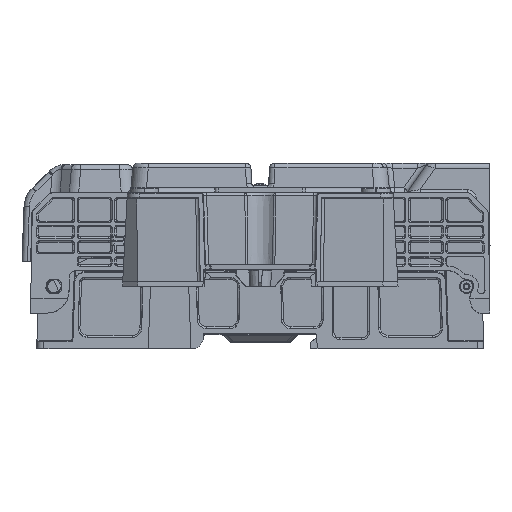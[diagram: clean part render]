
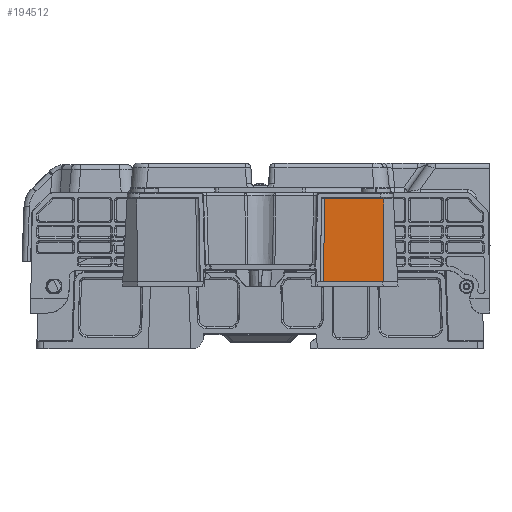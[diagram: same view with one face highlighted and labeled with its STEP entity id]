
A CAD part, front view. The second image highlights one B-rep face of the part: STEP entity #194512.
In plain terms, the highlighted planar face has unit normal (0, -1, -0.018) as drawn and (1, 0, -0.017) by its records, which use the part's own axes.
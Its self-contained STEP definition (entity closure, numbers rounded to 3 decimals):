
#15272 = VECTOR ( 'NONE', #196877, 1000. ) ;
#16289 = CARTESIAN_POINT ( 'NONE',  ( 38.997, 33.109, -1.677 ) ) ;
#16726 = DIRECTION ( 'NONE',  ( -0.017, 0., -1. ) ) ;
#17772 = EDGE_LOOP ( 'NONE', ( #159269, #117532, #165535, #231797, #231141, #183723 ) ) ;
#19069 = EDGE_CURVE ( 'NONE', #176197, #48552, #77238, .T. ) ;
#20794 = LINE ( 'NONE', #182715, #15272 ) ;
#31613 = EDGE_CURVE ( 'NONE', #131623, #188304, #186850, .T. ) ;
#35050 = CARTESIAN_POINT ( 'NONE',  ( 38.995, 33.324, -1.8 ) ) ;
#35976 = EDGE_CURVE ( 'NONE', #176197, #170138, #128241, .T. ) ;
#48552 = VERTEX_POINT ( 'NONE', #152769 ) ;
#52620 = CARTESIAN_POINT ( 'NONE',  ( 38.995, 33.267, -1.768 ) ) ;
#55269 = VECTOR ( 'NONE', #163432, 1000. ) ;
#77238 = B_SPLINE_CURVE_WITH_KNOTS ( 'NONE', 3,
 ( #178180, #179321, #157102, #142953, #35050, #212276, #52620, #16289, #87881, #214585 ),
 .UNSPECIFIED., .F., .F.,
 ( 4, 1, 1, 2, 2, 4 ),
 ( 0., 0.25, 0.375, 0.437, 0.5, 1. ),
 .UNSPECIFIED. ) ;
#80083 = DIRECTION ( 'NONE',  ( 0., 1., 0. ) ) ;
#84698 = VECTOR ( 'NONE', #80083, 1000. ) ;
#87881 = CARTESIAN_POINT ( 'NONE',  ( 38.998, 32.966, -1.591 ) ) ;
#88328 = CARTESIAN_POINT ( 'NONE',  ( 39., 0., -1.5 ) ) ;
#92147 = CARTESIAN_POINT ( 'NONE',  ( 38.991, 39.496, -2. ) ) ;
#96692 = PLANE ( 'NONE',  #190207 ) ;
#105529 = CARTESIAN_POINT ( 'NONE',  ( 38.529, 39.305, -28.5 ) ) ;
#107042 = VECTOR ( 'NONE', #179152, 1000. ) ;
#117532 = ORIENTED_EDGE ( 'NONE', *, *, #19069, .T. ) ;
#122907 = CARTESIAN_POINT ( 'NONE',  ( 38.528, 20.178, -28.517 ) ) ;
#128241 = LINE ( 'NONE', #219766, #55269 ) ;
#131623 = VERTEX_POINT ( 'NONE', #133750 ) ;
#133750 = CARTESIAN_POINT ( 'NONE',  ( 38.529, 20.179, -28.5 ) ) ;
#135254 = EDGE_CURVE ( 'NONE', #188304, #170138, #20794, .T. ) ;
#139957 = DIRECTION ( 'NONE',  ( 1., 0., -0.017 ) ) ;
#141803 = LINE ( 'NONE', #214582, #226856 ) ;
#142953 = CARTESIAN_POINT ( 'NONE',  ( 38.994, 33.379, -1.832 ) ) ;
#148948 = EDGE_CURVE ( 'NONE', #48552, #184811, #141803, .T. ) ;
#149336 = CARTESIAN_POINT ( 'NONE',  ( 38.529, 0., -28.5 ) ) ;
#152769 = CARTESIAN_POINT ( 'NONE',  ( 39., 32.819, -1.5 ) ) ;
#157102 = CARTESIAN_POINT ( 'NONE',  ( 38.993, 33.508, -1.904 ) ) ;
#159269 = ORIENTED_EDGE ( 'NONE', *, *, #35976, .F. ) ;
#163432 = DIRECTION ( 'NONE',  ( 0., 1., 0. ) ) ;
#165535 = ORIENTED_EDGE ( 'NONE', *, *, #148948, .T. ) ;
#170138 = VERTEX_POINT ( 'NONE', #92147 ) ;
#176197 = VERTEX_POINT ( 'NONE', #196426 ) ;
#178180 = CARTESIAN_POINT ( 'NONE',  ( 38.991, 33.688, -2. ) ) ;
#179152 = DIRECTION ( 'NONE',  ( -0.017, -0.017, -1. ) ) ;
#179321 = CARTESIAN_POINT ( 'NONE',  ( 38.992, 33.617, -1.962 ) ) ;
#182715 = CARTESIAN_POINT ( 'NONE',  ( 38.995, 39.498, -1.785 ) ) ;
#183723 = ORIENTED_EDGE ( 'NONE', *, *, #135254, .T. ) ;
#184811 = VERTEX_POINT ( 'NONE', #196536 ) ;
#186850 = LINE ( 'NONE', #149336, #84698 ) ;
#188304 = VERTEX_POINT ( 'NONE', #105529 ) ;
#190207 = AXIS2_PLACEMENT_3D ( 'NONE', #88328, #139957, #16726 ) ;
#194512 = ADVANCED_FACE ( 'NONE', ( #226850 ), #96692, .T. ) ;
#196426 = CARTESIAN_POINT ( 'NONE',  ( 38.991, 33.688, -2. ) ) ;
#196536 = CARTESIAN_POINT ( 'NONE',  ( 39., 20.65, -1.5 ) ) ;
#196877 = DIRECTION ( 'NONE',  ( 0.017, 0.007, 1. ) ) ;
#209581 = EDGE_CURVE ( 'NONE', #184811, #131623, #212102, .T. ) ;
#212102 = LINE ( 'NONE', #122907, #107042 ) ;
#212276 = CARTESIAN_POINT ( 'NONE',  ( 38.995, 33.287, -1.779 ) ) ;
#213428 = DIRECTION ( 'NONE',  ( 0., -1., 0. ) ) ;
#214582 = CARTESIAN_POINT ( 'NONE',  ( 39., 0., -1.5 ) ) ;
#214585 = CARTESIAN_POINT ( 'NONE',  ( 39., 32.819, -1.5 ) ) ;
#219766 = CARTESIAN_POINT ( 'NONE',  ( 38.991, 0., -2. ) ) ;
#226850 = FACE_OUTER_BOUND ( 'NONE', #17772, .T. ) ;
#226856 = VECTOR ( 'NONE', #213428, 1000. ) ;
#231141 = ORIENTED_EDGE ( 'NONE', *, *, #31613, .T. ) ;
#231797 = ORIENTED_EDGE ( 'NONE', *, *, #209581, .T. ) ;
